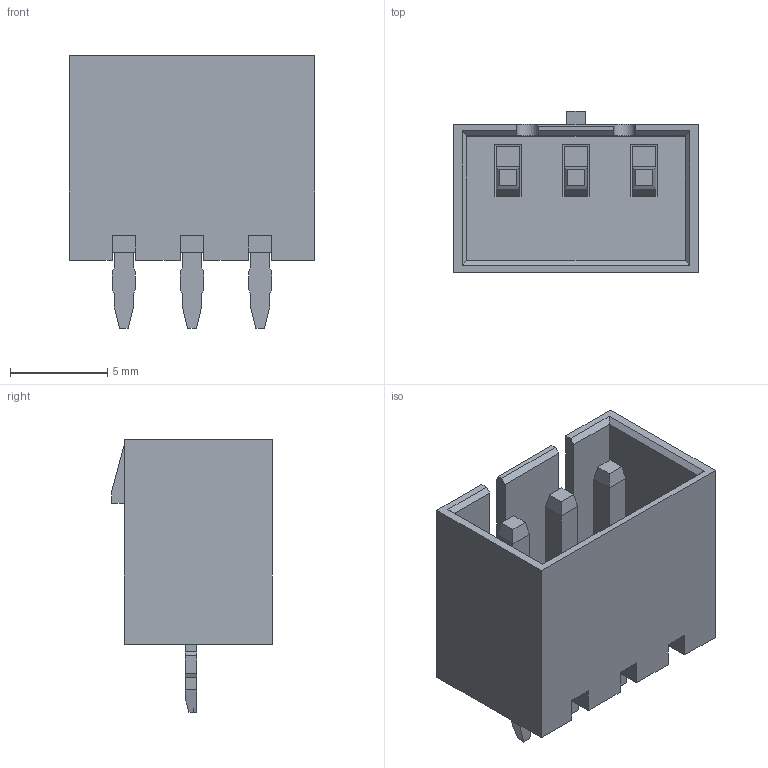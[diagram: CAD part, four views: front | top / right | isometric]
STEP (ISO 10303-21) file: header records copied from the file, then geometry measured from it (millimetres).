
FILE_DESCRIPTION((''),'2;1');
FILE_NAME('532580329','2016-09-29T',('rlalsangi'),(''),'PRO/ENGINEER BY PARAMETRIC TECHNOLOGY CORPORATION, 2012310','PRO/ENGINEER BY PARAMETRIC TECHNOLOGY CORPORATION, 2012310','');
FILE_SCHEMA(('CONFIG_CONTROL_DESIGN'));
Length unit declared in the file: millimetre
Products named in the file (1): 532580329
Bounding box: 12.6 x 8.25 x 14 mm (x, y, z)
Volume: 484.5 mm3; surface area: 1054.2 mm2
Topology: 1 solids, 1 shells, 198 faces, 568 edges, 376 vertices
Faces by surface type: plane 196, cylinder 2
Entity records: 6330 total; most frequent: CARTESIAN_POINT 1124, ORIENTED_EDGE 1110, DIRECTION 978, VECTOR 558, LINE 558, EDGE_CURVE 555, VERTEX_POINT 356, AXIS2_PLACEMENT_3D 210
